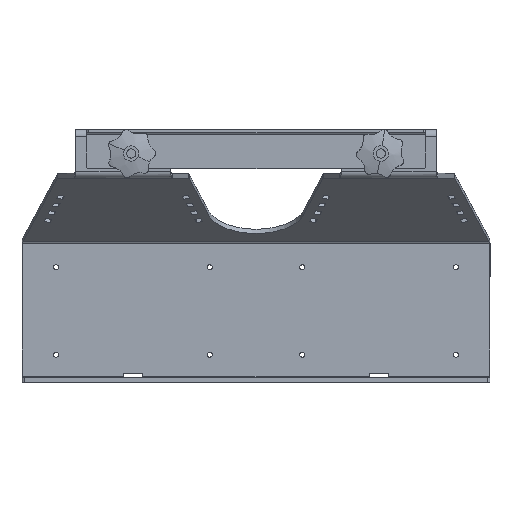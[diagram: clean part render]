
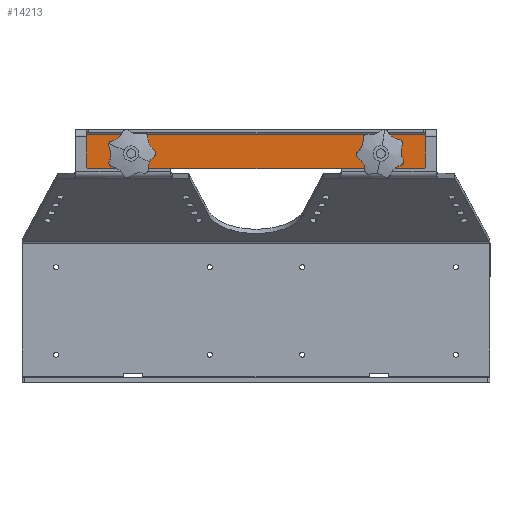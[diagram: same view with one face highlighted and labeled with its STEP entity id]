
A CAD part, front view. The second image highlights one B-rep face of the part: STEP entity #14213.
In plain terms, the highlighted planar face has unit normal (0, -1, 0).
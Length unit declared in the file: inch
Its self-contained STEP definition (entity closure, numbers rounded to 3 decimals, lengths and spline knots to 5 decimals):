
#86 = LINE ( 'NONE', #12744, #5746 ) ;
#266 = VERTEX_POINT ( 'NONE', #7513 ) ;
#396 = AXIS2_PLACEMENT_3D ( 'NONE', #4875, #11671, #3672 ) ;
#493 = DIRECTION ( 'NONE',  ( 0., 0., -1. ) ) ;
#526 = ORIENTED_EDGE ( 'NONE', *, *, #9384, .F. ) ;
#731 = DIRECTION ( 'NONE',  ( 0., -1., 0. ) ) ;
#772 = ORIENTED_EDGE ( 'NONE', *, *, #1196, .F. ) ;
#1169 = EDGE_LOOP ( 'NONE', ( #7679, #11010 ) ) ;
#1196 = EDGE_CURVE ( 'NONE', #14170, #14856, #6320, .T. ) ;
#1278 = VECTOR ( 'NONE', #10248, 39.37008 ) ;
#1448 = ORIENTED_EDGE ( 'NONE', *, *, #3032, .T. ) ;
#1671 = EDGE_CURVE ( 'NONE', #9513, #8687, #10323, .T. ) ;
#1960 = DIRECTION ( 'NONE',  ( 0., -1., 0. ) ) ;
#2112 = DIRECTION ( 'NONE',  ( 0., 0., -1. ) ) ;
#2472 = DIRECTION ( 'NONE',  ( 1., 0., 0. ) ) ;
#2476 = EDGE_CURVE ( 'NONE', #11717, #7598, #6403, .T. ) ;
#2824 = LINE ( 'NONE', #6228, #9148 ) ;
#2910 = VERTEX_POINT ( 'NONE', #14596 ) ;
#3032 = EDGE_CURVE ( 'NONE', #5984, #266, #86, .T. ) ;
#3446 = CARTESIAN_POINT ( 'NONE',  ( -4.35, -0.831, 1.12138 ) ) ;
#3672 = DIRECTION ( 'NONE',  ( 0., 0., 1. ) ) ;
#3712 = ORIENTED_EDGE ( 'NONE', *, *, #6419, .F. ) ;
#3972 = CIRCLE ( 'NONE', #396, 0.1378 ) ;
#4411 = ORIENTED_EDGE ( 'NONE', *, *, #10725, .T. ) ;
#4459 = CARTESIAN_POINT ( 'NONE',  ( 4.29, -0.831, 0.24137 ) ) ;
#4654 = DIRECTION ( 'NONE',  ( 0., 0., -1. ) ) ;
#4875 = CARTESIAN_POINT ( 'NONE',  ( 3.2, -0.831, 0.632 ) ) ;
#5260 = CARTESIAN_POINT ( 'NONE',  ( 3.2, -0.831, 0.632 ) ) ;
#5490 = EDGE_CURVE ( 'NONE', #8687, #7704, #9476, .T. ) ;
#5655 = DIRECTION ( 'NONE',  ( 0., -1., 0. ) ) ;
#5746 = VECTOR ( 'NONE', #4654, 39.37008 ) ;
#5850 = AXIS2_PLACEMENT_3D ( 'NONE', #5260, #12282, #6405 ) ;
#5984 = VERTEX_POINT ( 'NONE', #11846 ) ;
#6228 = CARTESIAN_POINT ( 'NONE',  ( 4.35, -0.831, 1.16137 ) ) ;
#6247 = CIRCLE ( 'NONE', #12750, 0.1378 ) ;
#6320 = CIRCLE ( 'NONE', #5850, 0.1378 ) ;
#6403 = CIRCLE ( 'NONE', #9996, 0.1378 ) ;
#6405 = DIRECTION ( 'NONE',  ( 0., 0., 1. ) ) ;
#6419 = EDGE_CURVE ( 'NONE', #2910, #7704, #2824, .T. ) ;
#6455 = CIRCLE ( 'NONE', #6913, 0.06 ) ;
#6539 = CARTESIAN_POINT ( 'NONE',  ( -4.29, -0.831, 0.30138 ) ) ;
#6880 = CARTESIAN_POINT ( 'NONE',  ( -3.2, -0.831, 0.7698 ) ) ;
#6913 = AXIS2_PLACEMENT_3D ( 'NONE', #6539, #8965, #7811 ) ;
#7513 = CARTESIAN_POINT ( 'NONE',  ( -4.35, -0.831, 0.30138 ) ) ;
#7552 = PLANE ( 'NONE',  #11660 ) ;
#7598 = VERTEX_POINT ( 'NONE', #9437 ) ;
#7679 = ORIENTED_EDGE ( 'NONE', *, *, #2476, .F. ) ;
#7704 = VERTEX_POINT ( 'NONE', #9250 ) ;
#7811 = DIRECTION ( 'NONE',  ( 0., 0., 1. ) ) ;
#8195 = LINE ( 'NONE', #3446, #8501 ) ;
#8501 = VECTOR ( 'NONE', #2472, 39.37008 ) ;
#8507 = DIRECTION ( 'NONE',  ( 0., 0., -1. ) ) ;
#8687 = VERTEX_POINT ( 'NONE', #4459 ) ;
#8905 = EDGE_LOOP ( 'NONE', ( #772, #10783 ) ) ;
#8965 = DIRECTION ( 'NONE',  ( 0., -1., 0. ) ) ;
#9029 = CARTESIAN_POINT ( 'NONE',  ( -4.29, -0.831, 0.24138 ) ) ;
#9148 = VECTOR ( 'NONE', #493, 39.37008 ) ;
#9250 = CARTESIAN_POINT ( 'NONE',  ( 4.35, -0.831, 0.30137 ) ) ;
#9384 = EDGE_CURVE ( 'NONE', #5984, #2910, #8195, .T. ) ;
#9437 = CARTESIAN_POINT ( 'NONE',  ( -3.2, -0.831, 0.4942 ) ) ;
#9476 = CIRCLE ( 'NONE', #11623, 0.06 ) ;
#9513 = VERTEX_POINT ( 'NONE', #9029 ) ;
#9692 = FACE_OUTER_BOUND ( 'NONE', #14750, .T. ) ;
#9697 = DIRECTION ( 'NONE',  ( 0., 0., 1. ) ) ;
#9996 = AXIS2_PLACEMENT_3D ( 'NONE', #13406, #5655, #2112 ) ;
#10109 = CARTESIAN_POINT ( 'NONE',  ( -4.35, -0.831, 0.24138 ) ) ;
#10248 = DIRECTION ( 'NONE',  ( 1., 0., 0. ) ) ;
#10323 = LINE ( 'NONE', #10109, #1278 ) ;
#10520 = CARTESIAN_POINT ( 'NONE',  ( 3.2, -0.831, 0.4942 ) ) ;
#10725 = EDGE_CURVE ( 'NONE', #266, #9513, #6455, .T. ) ;
#10783 = ORIENTED_EDGE ( 'NONE', *, *, #14853, .F. ) ;
#11010 = ORIENTED_EDGE ( 'NONE', *, *, #12499, .F. ) ;
#11019 = DIRECTION ( 'NONE',  ( 0., -1., 0. ) ) ;
#11148 = ORIENTED_EDGE ( 'NONE', *, *, #5490, .T. ) ;
#11623 = AXIS2_PLACEMENT_3D ( 'NONE', #14425, #731, #9697 ) ;
#11650 = FACE_BOUND ( 'NONE', #8905, .T. ) ;
#11660 = AXIS2_PLACEMENT_3D ( 'NONE', #14416, #11019, #12106 ) ;
#11671 = DIRECTION ( 'NONE',  ( 0., -1., 0. ) ) ;
#11717 = VERTEX_POINT ( 'NONE', #6880 ) ;
#11846 = CARTESIAN_POINT ( 'NONE',  ( -4.35, -0.831, 1.12138 ) ) ;
#12106 = DIRECTION ( 'NONE',  ( 0., 0., 1. ) ) ;
#12282 = DIRECTION ( 'NONE',  ( 0., -1., 0. ) ) ;
#12499 = EDGE_CURVE ( 'NONE', #7598, #11717, #6247, .T. ) ;
#12744 = CARTESIAN_POINT ( 'NONE',  ( -4.35, -0.831, 1.16138 ) ) ;
#12750 = AXIS2_PLACEMENT_3D ( 'NONE', #14296, #1960, #8507 ) ;
#12806 = ORIENTED_EDGE ( 'NONE', *, *, #1671, .T. ) ;
#13406 = CARTESIAN_POINT ( 'NONE',  ( -3.2, -0.831, 0.632 ) ) ;
#13975 = FACE_BOUND ( 'NONE', #1169, .T. ) ;
#14170 = VERTEX_POINT ( 'NONE', #14190 ) ;
#14190 = CARTESIAN_POINT ( 'NONE',  ( 3.2, -0.831, 0.7698 ) ) ;
#14213 = ADVANCED_FACE ( 'NONE', ( #11650, #13975, #9692 ), #7552, .T. ) ;
#14296 = CARTESIAN_POINT ( 'NONE',  ( -3.2, -0.831, 0.632 ) ) ;
#14416 = CARTESIAN_POINT ( 'NONE',  ( -4.35, -0.831, 1.16138 ) ) ;
#14425 = CARTESIAN_POINT ( 'NONE',  ( 4.29, -0.831, 0.30137 ) ) ;
#14596 = CARTESIAN_POINT ( 'NONE',  ( 4.35, -0.831, 1.12137 ) ) ;
#14750 = EDGE_LOOP ( 'NONE', ( #12806, #11148, #3712, #526, #1448, #4411 ) ) ;
#14853 = EDGE_CURVE ( 'NONE', #14856, #14170, #3972, .T. ) ;
#14856 = VERTEX_POINT ( 'NONE', #10520 ) ;
